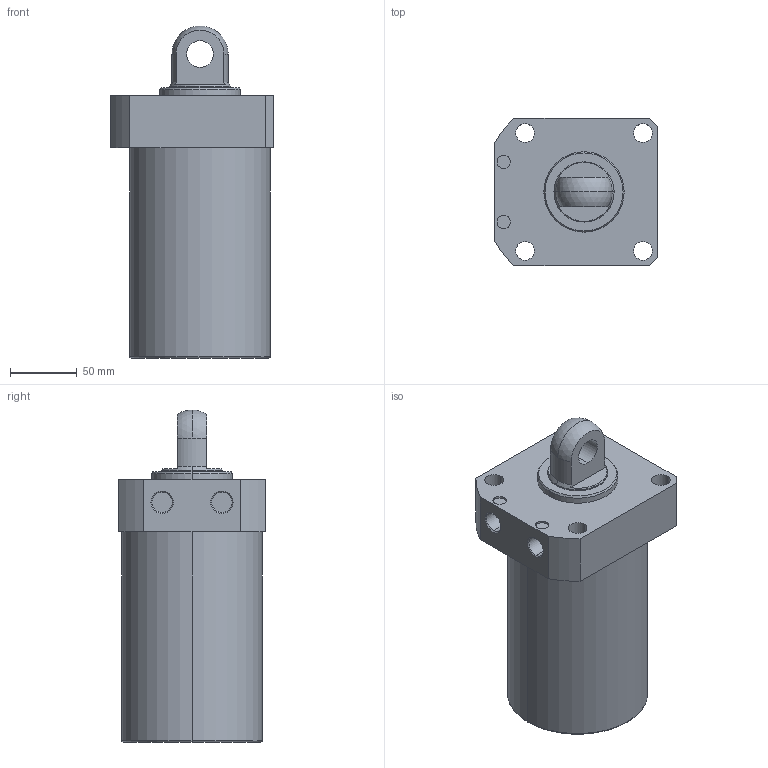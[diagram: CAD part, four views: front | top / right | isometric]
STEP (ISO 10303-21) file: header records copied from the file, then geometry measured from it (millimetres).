
FILE_DESCRIPTION (( 'STEP AP203' ), '1' );
FILE_NAME ('CLLR-105CP-110.STEP', '2019-12-18T08:06:47', ( '' ), ( '' ), 'SwSTEP 2.0', 'SolidWorks 2015', '' );
FILE_SCHEMA (( 'CONFIG_CONTROL_DESIGN' ));
Length unit declared in the file: millimetre
Products named in the file (1): CLLR-105CP-110
Bounding box: 122 x 110 x 248 mm (x, y, z)
Volume: 1885568.5 mm3; surface area: 109316 mm2
Topology: 1 solids, 1 shells, 59 faces, 139 edges, 89 vertices
Faces by surface type: cylinder 29, plane 18, cone 8, torus 2, sphere 2
Entity records: 1822 total; most frequent: DIRECTION 331, CARTESIAN_POINT 300, ORIENTED_EDGE 278, EDGE_CURVE 139, AXIS2_PLACEMENT_3D 136, VERTEX_POINT 89, EDGE_LOOP 76, CIRCLE 76
